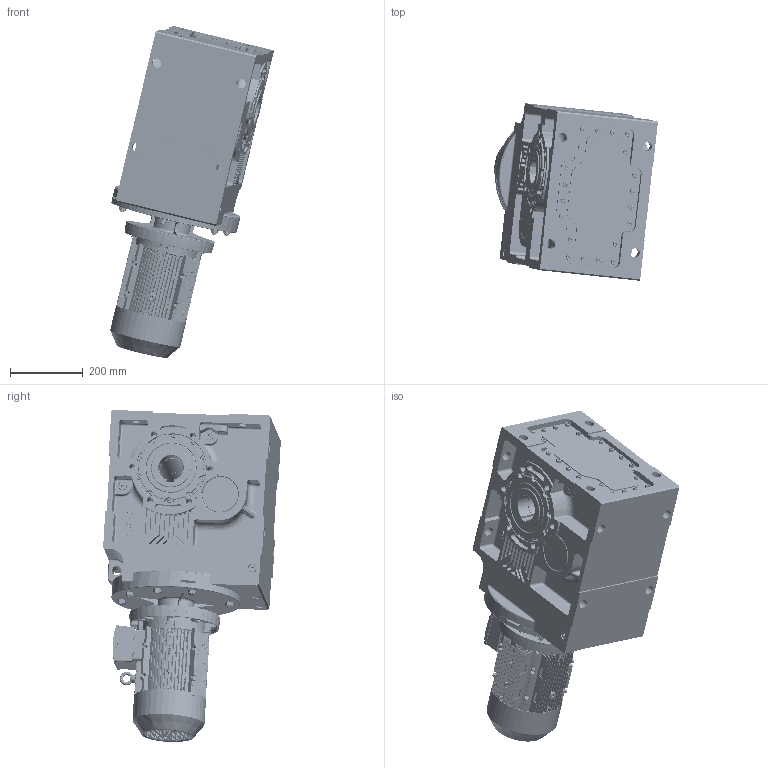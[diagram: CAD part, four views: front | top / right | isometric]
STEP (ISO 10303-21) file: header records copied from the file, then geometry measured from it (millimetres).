
FILE_DESCRIPTION (( 'STEP AP203' ), '1' );
FILE_NAME ('KV_673_0_MX3-100.STEP', '2018-11-21T09:23:03', ( '' ), ( '' ), 'SwSTEP 2.0', 'SolidWorks 2012', '' );
FILE_SCHEMA (( 'CONFIG_CONTROL_DESIGN' ));
Products named in the file (16): MX3-100L_B5; KV_673_0_MX3-100; IE3 100 B5 flange; IE3 100 fan; IE3 100 fan cover; plain parallel keys_GB_CONNECTING_PIECE_KEYS_CSK 8X50; IE3 100 shaft cover; IE3 100 terminal box base; eyebolts gb_GB_FASTENER_SCREWS_FRS M8-N; IE3 100 terminal box cover; IE3 100 Shaft; IE3 100 B3 Shield; ML60A_Varsayìlan; IE3 100 casing; 63100B5_Varsayìlan; K673_Varsayìlan
Assembly tree (16 placements, depth 3):
  KV_673_0_MX3-100
    K673_Varsayìlan
    63100B5_Varsayìlan
    ML60A_Varsayìlan
    MX3-100L_B5
      IE3 100 casing
      IE3 100 B3 Shield
      IE3 100 Shaft
      eyebolts gb_GB_FASTENER_SCREWS_FRS M8-N
      IE3 100 terminal box base
      IE3 100 terminal box cover
      IE3 100 fan
      IE3 100 fan cover
      plain parallel keys_GB_CONNECTING_PIECE_KEYS_CSK 8X50
      IE3 100 shaft cover  x2
      IE3 100 B5 flange
Bounding box: 449.69 x 488.28 x 912.15 mm (x, y, z)
Volume: 55119297.4 mm3; surface area: 3357258.4 mm2
Topology: 67 solids, 69 shells, 10021 faces, 24819 edges, 14937 vertices
Faces by surface type: cylinder 2741, plane 2718, cone 2138, bspline 1689, torus 634, sphere 101
Entity records: 364918 total; most frequent: CARTESIAN_POINT 137263, ORIENTED_EDGE 48784, DIRECTION 45814, EDGE_CURVE 24392, AXIS2_PLACEMENT_3D 17641, VERTEX_POINT 14823, EDGE_LOOP 10669, LINE 10532
